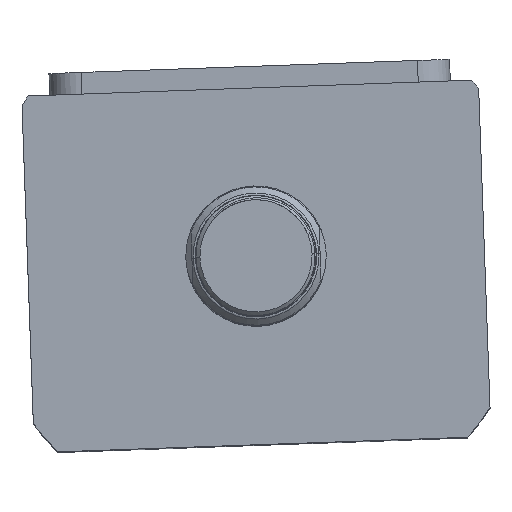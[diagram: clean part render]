
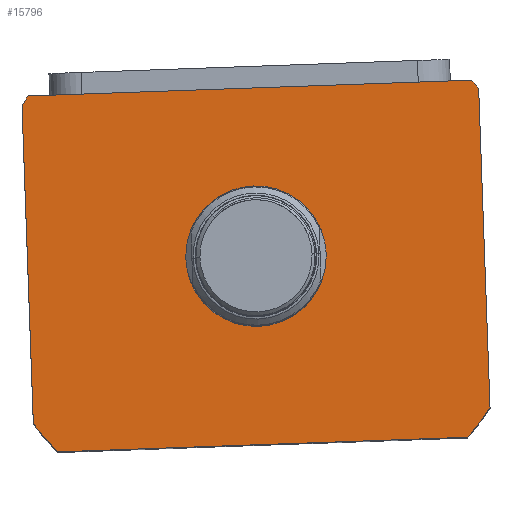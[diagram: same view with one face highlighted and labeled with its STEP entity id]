
A CAD part, top view. The second image highlights one B-rep face of the part: STEP entity #15796.
In plain terms, the highlighted planar face has unit normal (0, 0, 1) as drawn and (0, 0, -1) by its records, which use the part's own axes.
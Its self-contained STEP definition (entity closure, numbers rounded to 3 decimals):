
#479 = DIRECTION ( 'NONE',  ( 1., 0., 0. ) ) ;
#962 = CARTESIAN_POINT ( 'NONE',  ( 0., 0., 0. ) ) ;
#1095 = EDGE_CURVE ( 'NONE', #27858, #15730, #26062, .T. ) ;
#1498 = DIRECTION ( 'NONE',  ( 1., 0., 0. ) ) ;
#1815 = CARTESIAN_POINT ( 'NONE',  ( 0., 2.5, 0. ) ) ;
#3168 = CARTESIAN_POINT ( 'NONE',  ( 57., 44.5, 0. ) ) ;
#3752 = CARTESIAN_POINT ( 'NONE',  ( -57., 44.5, 0. ) ) ;
#3843 = DIRECTION ( 'NONE',  ( -1., 0., 0. ) ) ;
#4004 = DIRECTION ( 'NONE',  ( 1., 0., 0. ) ) ;
#4049 = DIRECTION ( 'NONE',  ( 0., 0., 1. ) ) ;
#4313 = DIRECTION ( 'NONE',  ( 0., -1., 0. ) ) ;
#5121 = CARTESIAN_POINT ( 'NONE',  ( 57., -37.265, 0. ) ) ;
#5177 = VERTEX_POINT ( 'NONE', #14955 ) ;
#5318 = DIRECTION ( 'NONE',  ( 1., 0., 0. ) ) ;
#5647 = VECTOR ( 'NONE', #18377, 1000. ) ;
#5942 = CIRCLE ( 'NONE', #17457, 17.5 ) ;
#5993 = CIRCLE ( 'NONE', #7951, 17.5 ) ;
#6033 = EDGE_LOOP ( 'NONE', ( #14718, #19030, #22129, #21895, #18766, #27659, #16057, #24895 ) ) ;
#6402 = VERTEX_POINT ( 'NONE', #18027 ) ;
#6533 = CARTESIAN_POINT ( 'NONE',  ( 0., 2.5, 0. ) ) ;
#6989 = LINE ( 'NONE', #3168, #5647 ) ;
#7241 = CARTESIAN_POINT ( 'NONE',  ( -17.5, 2.5, 0. ) ) ;
#7445 = AXIS2_PLACEMENT_3D ( 'NONE', #6533, #21717, #8725 ) ;
#7778 = EDGE_CURVE ( 'NONE', #19965, #12188, #12351, .T. ) ;
#7951 = AXIS2_PLACEMENT_3D ( 'NONE', #25701, #12711, #27890 ) ;
#8725 = DIRECTION ( 'NONE',  ( 1., 0., 0. ) ) ;
#9190 = FACE_BOUND ( 'NONE', #12394, .T. ) ;
#9257 = CARTESIAN_POINT ( 'NONE',  ( 51.198, -44.5, 0. ) ) ;
#9370 = AXIS2_PLACEMENT_3D ( 'NONE', #27534, #14534, #1498 ) ;
#9441 = VECTOR ( 'NONE', #3843, 1000. ) ;
#9722 = DIRECTION ( 'NONE',  ( 1., 0., 0. ) ) ;
#10246 = EDGE_CURVE ( 'NONE', #6402, #14881, #15391, .T. ) ;
#10460 = ORIENTED_EDGE ( 'NONE', *, *, #26317, .T. ) ;
#10496 = CARTESIAN_POINT ( 'NONE',  ( 17.5, 2.5, 0. ) ) ;
#11324 = VERTEX_POINT ( 'NONE', #7241 ) ;
#11706 = AXIS2_PLACEMENT_3D ( 'NONE', #26493, #13499, #479 ) ;
#12188 = VERTEX_POINT ( 'NONE', #20649 ) ;
#12351 = CIRCLE ( 'NONE', #11706, 69.5 ) ;
#12394 = EDGE_LOOP ( 'NONE', ( #20936, #10460 ) ) ;
#12452 = EDGE_CURVE ( 'NONE', #25903, #11324, #5942, .T. ) ;
#12711 = DIRECTION ( 'NONE',  ( 0., 0., 1. ) ) ;
#12959 = AXIS2_PLACEMENT_3D ( 'NONE', #17074, #4049, #19250 ) ;
#13499 = DIRECTION ( 'NONE',  ( 0., 0., 1. ) ) ;
#14534 = DIRECTION ( 'NONE',  ( 0., 0., 1. ) ) ;
#14718 = ORIENTED_EDGE ( 'NONE', *, *, #20067, .F. ) ;
#14881 = VERTEX_POINT ( 'NONE', #23301 ) ;
#14909 = AXIS2_PLACEMENT_3D ( 'NONE', #962, #18343, #5318 ) ;
#14955 = CARTESIAN_POINT ( 'NONE',  ( 57., 42.265, 0. ) ) ;
#15272 = CIRCLE ( 'NONE', #12959, 69.5 ) ;
#15391 = CIRCLE ( 'NONE', #7445, 69.5 ) ;
#15730 = VERTEX_POINT ( 'NONE', #5121 ) ;
#15796 = ADVANCED_FACE ( 'NONE', ( #9190, #25824 ), #20423, .F. ) ;
#16057 = ORIENTED_EDGE ( 'NONE', *, *, #7778, .F. ) ;
#16739 = EDGE_CURVE ( 'NONE', #14881, #27858, #21439, .T. ) ;
#16797 = CARTESIAN_POINT ( 'NONE',  ( -55.374, 44.5, 0. ) ) ;
#17037 = DIRECTION ( 'NONE',  ( 0., 0., 1. ) ) ;
#17074 = CARTESIAN_POINT ( 'NONE',  ( 0., 2.5, 0. ) ) ;
#17337 = VECTOR ( 'NONE', #4313, 1000. ) ;
#17348 = CARTESIAN_POINT ( 'NONE',  ( -57., 44.5, 0. ) ) ;
#17457 = AXIS2_PLACEMENT_3D ( 'NONE', #1815, #17037, #4004 ) ;
#18027 = CARTESIAN_POINT ( 'NONE',  ( -57., -37.265, 0. ) ) ;
#18343 = DIRECTION ( 'NONE',  ( 0., 0., 1. ) ) ;
#18377 = DIRECTION ( 'NONE',  ( 0., 1., 0. ) ) ;
#18503 = EDGE_CURVE ( 'NONE', #12188, #6402, #22414, .T. ) ;
#18766 = ORIENTED_EDGE ( 'NONE', *, *, #10246, .F. ) ;
#19030 = ORIENTED_EDGE ( 'NONE', *, *, #27176, .F. ) ;
#19250 = DIRECTION ( 'NONE',  ( 1., 0., 0. ) ) ;
#19965 = VERTEX_POINT ( 'NONE', #16797 ) ;
#20001 = VERTEX_POINT ( 'NONE', #20964 ) ;
#20067 = EDGE_CURVE ( 'NONE', #5177, #20001, #15272, .T. ) ;
#20423 = PLANE ( 'NONE',  #14909 ) ;
#20649 = CARTESIAN_POINT ( 'NONE',  ( -57., 42.265, 0. ) ) ;
#20765 = VECTOR ( 'NONE', #9722, 1000. ) ;
#20936 = ORIENTED_EDGE ( 'NONE', *, *, #12452, .T. ) ;
#20964 = CARTESIAN_POINT ( 'NONE',  ( 55.374, 44.5, 0. ) ) ;
#20978 = LINE ( 'NONE', #3752, #9441 ) ;
#21439 = LINE ( 'NONE', #27081, #20765 ) ;
#21717 = DIRECTION ( 'NONE',  ( 0., 0., 1. ) ) ;
#21895 = ORIENTED_EDGE ( 'NONE', *, *, #16739, .F. ) ;
#22129 = ORIENTED_EDGE ( 'NONE', *, *, #1095, .F. ) ;
#22414 = LINE ( 'NONE', #17348, #17337 ) ;
#23163 = EDGE_CURVE ( 'NONE', #20001, #19965, #20978, .T. ) ;
#23301 = CARTESIAN_POINT ( 'NONE',  ( -51.198, -44.5, 0. ) ) ;
#24895 = ORIENTED_EDGE ( 'NONE', *, *, #23163, .F. ) ;
#25701 = CARTESIAN_POINT ( 'NONE',  ( 0., 2.5, 0. ) ) ;
#25824 = FACE_OUTER_BOUND ( 'NONE', #6033, .T. ) ;
#25903 = VERTEX_POINT ( 'NONE', #10496 ) ;
#26062 = CIRCLE ( 'NONE', #9370, 69.5 ) ;
#26317 = EDGE_CURVE ( 'NONE', #11324, #25903, #5993, .T. ) ;
#26493 = CARTESIAN_POINT ( 'NONE',  ( 0., 2.5, 0. ) ) ;
#27081 = CARTESIAN_POINT ( 'NONE',  ( -57., -44.5, 0. ) ) ;
#27176 = EDGE_CURVE ( 'NONE', #15730, #5177, #6989, .T. ) ;
#27534 = CARTESIAN_POINT ( 'NONE',  ( 0., 2.5, 0. ) ) ;
#27659 = ORIENTED_EDGE ( 'NONE', *, *, #18503, .F. ) ;
#27858 = VERTEX_POINT ( 'NONE', #9257 ) ;
#27890 = DIRECTION ( 'NONE',  ( 1., 0., 0. ) ) ;
